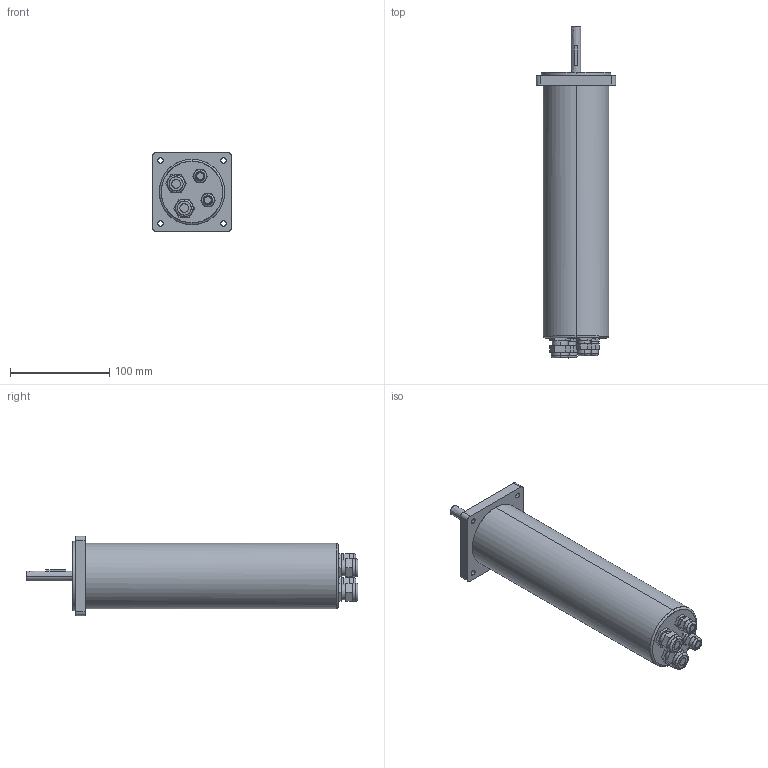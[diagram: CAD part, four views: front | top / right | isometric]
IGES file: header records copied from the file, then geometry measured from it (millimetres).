
Start section: Comment
Global section: file name: LT0173-11GB.igs; native system:  By UGS Corp.; preprocessor: XPlus GENERIC/IGES 3.0; author: Author; organization: Title; date: 20110929.102552; units: millimetre
Bounding box: 80 x 334.7 x 80 mm (x, y, z)
Surface area: 75437.9 mm2 (no closed solid volume)
Topology: 0 solids, 0 shells, 159 faces, 736 edges, 736 vertices
Faces by surface type: bspline 159
